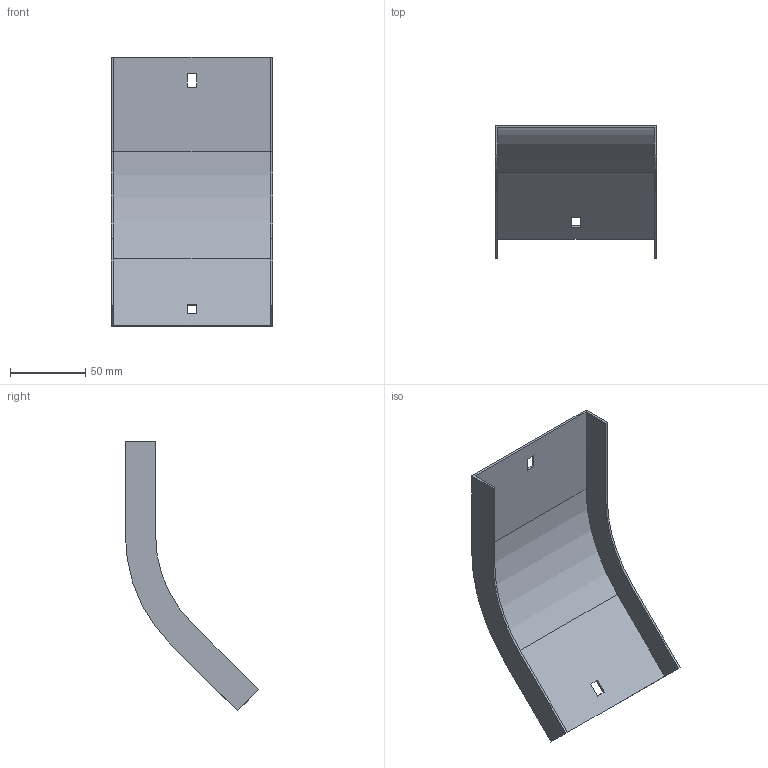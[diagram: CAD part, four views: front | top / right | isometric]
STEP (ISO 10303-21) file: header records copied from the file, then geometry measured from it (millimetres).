
FILE_DESCRIPTION (( 'STEP AP214' ), '1' );
FILE_NAME ('34G1C100.step', '2025-02-21T12:43:15', ( '' ), ( '' ), 'SwSTEP 2.0', 'SolidWorks 2023', '' );
FILE_SCHEMA (( 'AUTOMOTIVE_DESIGN' ));
Length unit declared in the file: millimetre
Products named in the file (1): 34G1C100
Bounding box: 107 x 88.23 x 178.86 mm (x, y, z)
Volume: 43579.8 mm3; surface area: 59201.6 mm2
Topology: 1 solids, 1 shells, 26 faces, 72 edges, 48 vertices
Faces by surface type: plane 22, cylinder 4
Entity records: 855 total; most frequent: CARTESIAN_POINT 147, ORIENTED_EDGE 144, DIRECTION 134, EDGE_CURVE 72, VECTOR 64, LINE 64, VERTEX_POINT 48, AXIS2_PLACEMENT_3D 35
